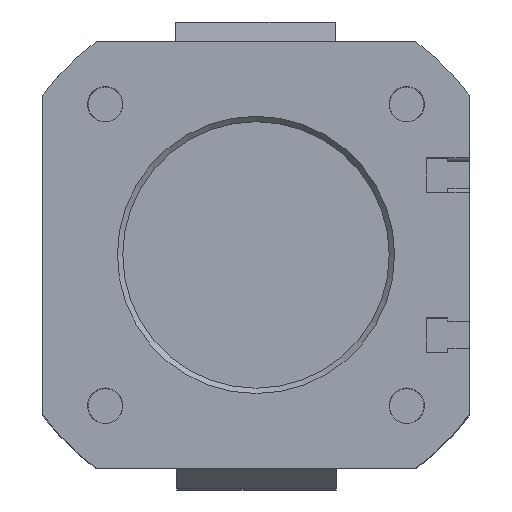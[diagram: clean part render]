
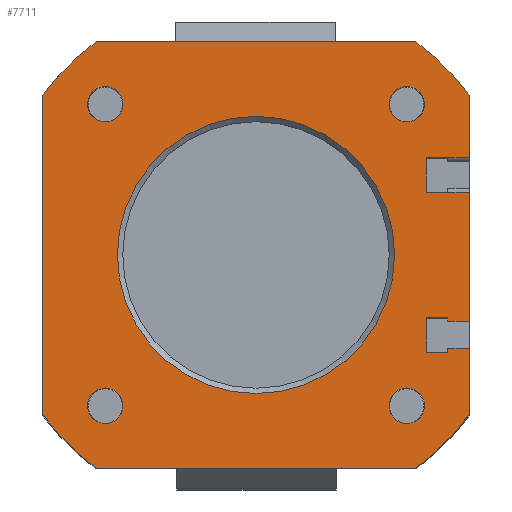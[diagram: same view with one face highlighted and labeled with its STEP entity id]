
A CAD part, top view. The second image highlights one B-rep face of the part: STEP entity #7711.
In plain terms, the highlighted planar face has unit normal (0, 0, 1).
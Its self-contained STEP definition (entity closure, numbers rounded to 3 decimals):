
#4103=CARTESIAN_POINT('',(-30.,80.,50.0));
#4104=VERTEX_POINT('',#4103);
#4111=CARTESIAN_POINT('',(30.,80.,50.0));
#4112=VERTEX_POINT('',#4111);
#4113=CARTESIAN_POINT('',(30.,80.,50.0));
#4114=DIRECTION('',(-1.0,0.0,0.0));
#4115=VECTOR('',#4114,60.);
#4116=LINE('',#4113,#4115);
#4117=EDGE_CURVE('',#4112,#4104,#4116,.T.);
#5008=CARTESIAN_POINT('',(30.,0.,50.0));
#5009=VERTEX_POINT('',#5008);
#5016=CARTESIAN_POINT('',(-30.,0.,50.0));
#5017=VERTEX_POINT('',#5016);
#5018=CARTESIAN_POINT('',(-30.,0.,50.0));
#5019=DIRECTION('',(1.0,0.0,0.0));
#5020=VECTOR('',#5019,60.);
#5021=LINE('',#5018,#5020);
#5022=EDGE_CURVE('',#5017,#5009,#5021,.T.);
#5316=CARTESIAN_POINT('',(-40.,10.,50.0));
#5317=VERTEX_POINT('',#5316);
#5324=CARTESIAN_POINT('',(-40.,70.,50.0));
#5325=VERTEX_POINT('',#5324);
#5326=CARTESIAN_POINT('',(-40.,70.,50.0));
#5327=DIRECTION('',(0.0,-1.0,0.0));
#5328=VECTOR('',#5327,60.0);
#5329=LINE('',#5326,#5328);
#5330=EDGE_CURVE('',#5325,#5317,#5329,.T.);
#5424=CARTESIAN_POINT('',(0.,40.,50.0));
#5425=DIRECTION('',(0.0,0.0,1.));
#5426=DIRECTION('',(-0.6,0.8,0.0));
#5427=AXIS2_PLACEMENT_3D('',#5424,#5425,#5426);
#5428=CIRCLE('',#5427,50.);
#5429=EDGE_CURVE('',#4104,#5325,#5428,.T.);
#5736=CARTESIAN_POINT('',(40.,70.,50.0));
#5737=VERTEX_POINT('',#5736);
#5744=CARTESIAN_POINT('',(40.,58.25,50.0));
#5745=VERTEX_POINT('',#5744);
#5746=CARTESIAN_POINT('',(40.,58.25,50.0));
#5747=DIRECTION('',(0.0,1.0,0.0));
#5748=VECTOR('',#5747,11.75);
#5749=LINE('',#5746,#5748);
#5750=EDGE_CURVE('',#5745,#5737,#5749,.T.);
#5802=CARTESIAN_POINT('',(40.,51.75,50.0));
#5803=VERTEX_POINT('',#5802);
#5810=CARTESIAN_POINT('',(40.,27.55,50.0));
#5811=VERTEX_POINT('',#5810);
#5812=CARTESIAN_POINT('',(40.,27.55,50.0));
#5813=DIRECTION('',(0.0,1.0,0.0));
#5814=VECTOR('',#5813,24.2);
#5815=LINE('',#5812,#5814);
#5816=EDGE_CURVE('',#5811,#5803,#5815,.T.);
#5859=CARTESIAN_POINT('',(40.,22.45,50.0));
#5860=VERTEX_POINT('',#5859);
#5867=CARTESIAN_POINT('',(40.,10.,50.0));
#5868=VERTEX_POINT('',#5867);
#5869=CARTESIAN_POINT('',(40.,10.,50.0));
#5870=DIRECTION('',(0.0,1.0,0.0));
#5871=VECTOR('',#5870,12.45);
#5872=LINE('',#5869,#5871);
#5873=EDGE_CURVE('',#5868,#5860,#5872,.T.);
#5979=CARTESIAN_POINT('',(0.,40.,50.0));
#5980=DIRECTION('',(0.0,0.0,1.));
#5981=DIRECTION('',(0.8,0.6,0.0));
#5982=AXIS2_PLACEMENT_3D('',#5979,#5980,#5981);
#5983=CIRCLE('',#5982,50.0);
#5984=EDGE_CURVE('',#5737,#4112,#5983,.T.);
#6016=CARTESIAN_POINT('',(0.,40.,50.0));
#6017=DIRECTION('',(0.0,0.0,1.));
#6018=DIRECTION('',(-0.8,-0.6,0.0));
#6019=AXIS2_PLACEMENT_3D('',#6016,#6017,#6018);
#6020=CIRCLE('',#6019,50.0);
#6021=EDGE_CURVE('',#5317,#5017,#6020,.T.);
#6051=CARTESIAN_POINT('',(0.,40.,50.0));
#6052=DIRECTION('',(0.0,0.0,1.));
#6053=DIRECTION('',(0.6,-0.8,0.0));
#6054=AXIS2_PLACEMENT_3D('',#6051,#6052,#6053);
#6055=CIRCLE('',#6054,50.);
#6056=EDGE_CURVE('',#5009,#5868,#6055,.T.);
#6941=CARTESIAN_POINT('',(32.,51.75,50.0));
#6942=VERTEX_POINT('',#6941);
#6943=CARTESIAN_POINT('',(40.,51.75,50.0));
#6944=DIRECTION('',(-1.0,0.0,0.0));
#6945=VECTOR('',#6944,8.0);
#6946=LINE('',#6943,#6945);
#6947=EDGE_CURVE('',#5803,#6942,#6946,.T.);
#7053=CARTESIAN_POINT('',(32.,58.25,50.0));
#7054=VERTEX_POINT('',#7053);
#7061=CARTESIAN_POINT('',(32.,51.75,50.0));
#7062=DIRECTION('',(0.0,1.0,0.0));
#7063=VECTOR('',#7062,6.5);
#7064=LINE('',#7061,#7063);
#7065=EDGE_CURVE('',#6942,#7054,#7064,.T.);
#7085=CARTESIAN_POINT('',(36.,27.55,50.0));
#7086=VERTEX_POINT('',#7085);
#7087=CARTESIAN_POINT('',(36.,27.55,50.0));
#7088=DIRECTION('',(1.0,0.0,0.0));
#7089=VECTOR('',#7088,4.0);
#7090=LINE('',#7087,#7089);
#7091=EDGE_CURVE('',#7086,#5811,#7090,.T.);
#7108=CARTESIAN_POINT('',(32.,21.75,50.0));
#7109=VERTEX_POINT('',#7108);
#7116=CARTESIAN_POINT('',(36.,21.75,50.0));
#7117=VERTEX_POINT('',#7116);
#7118=CARTESIAN_POINT('',(36.,21.75,50.0));
#7119=DIRECTION('',(-1.0,0.0,0.0));
#7120=VECTOR('',#7119,4.0);
#7121=LINE('',#7118,#7120);
#7122=EDGE_CURVE('',#7117,#7109,#7121,.T.);
#7148=CARTESIAN_POINT('',(32.,28.25,50.0));
#7149=VERTEX_POINT('',#7148);
#7156=CARTESIAN_POINT('',(32.,21.75,50.0));
#7157=DIRECTION('',(0.0,1.0,0.0));
#7158=VECTOR('',#7157,6.5);
#7159=LINE('',#7156,#7158);
#7160=EDGE_CURVE('',#7109,#7149,#7159,.T.);
#7181=CARTESIAN_POINT('',(36.,28.25,50.0));
#7182=VERTEX_POINT('',#7181);
#7189=CARTESIAN_POINT('',(32.,28.25,50.0));
#7190=DIRECTION('',(1.0,0.0,0.0));
#7191=VECTOR('',#7190,4.);
#7192=LINE('',#7189,#7191);
#7193=EDGE_CURVE('',#7149,#7182,#7192,.T.);
#7212=CARTESIAN_POINT('',(36.,28.25,50.0));
#7213=DIRECTION('',(0.0,-1.0,0.0));
#7214=VECTOR('',#7213,0.7);
#7215=LINE('',#7212,#7214);
#7216=EDGE_CURVE('',#7182,#7086,#7215,.T.);
#7237=CARTESIAN_POINT('',(36.,22.45,50.0));
#7238=VERTEX_POINT('',#7237);
#7239=CARTESIAN_POINT('',(36.,22.45,50.0));
#7240=DIRECTION('',(0.0,-1.0,0.0));
#7241=VECTOR('',#7240,0.7);
#7242=LINE('',#7239,#7241);
#7243=EDGE_CURVE('',#7238,#7117,#7242,.T.);
#7266=CARTESIAN_POINT('',(40.,22.45,50.0));
#7267=DIRECTION('',(-1.0,0.0,0.0));
#7268=VECTOR('',#7267,4.);
#7269=LINE('',#7266,#7268);
#7270=EDGE_CURVE('',#5860,#7238,#7269,.T.);
#7299=CARTESIAN_POINT('',(32.,58.25,50.0));
#7300=DIRECTION('',(1.0,0.0,0.0));
#7301=VECTOR('',#7300,8.);
#7302=LINE('',#7299,#7301);
#7303=EDGE_CURVE('',#7054,#5745,#7302,.T.);
#7374=CARTESIAN_POINT('',(28.284,15.039,50.0));
#7375=VERTEX_POINT('',#7374);
#7376=CARTESIAN_POINT('',(28.284,11.716,50.0));
#7377=DIRECTION('',(0.0,0.0,-1.0));
#7378=DIRECTION('',(0.0,1.0,0.0));
#7379=AXIS2_PLACEMENT_3D('',#7376,#7377,#7378);
#7380=CIRCLE('',#7379,3.324);
#7381=EDGE_CURVE('',#7375,#7375,#7380,.T.);
#7394=CARTESIAN_POINT('',(-28.284,15.039,50.0));
#7395=VERTEX_POINT('',#7394);
#7396=CARTESIAN_POINT('',(-28.284,11.716,50.0));
#7397=DIRECTION('',(0.0,0.0,-1.0));
#7398=DIRECTION('',(0.0,1.0,0.0));
#7399=AXIS2_PLACEMENT_3D('',#7396,#7397,#7398);
#7400=CIRCLE('',#7399,3.324);
#7401=EDGE_CURVE('',#7395,#7395,#7400,.T.);
#7422=CARTESIAN_POINT('',(-28.284,71.608,50.0));
#7423=VERTEX_POINT('',#7422);
#7424=CARTESIAN_POINT('',(-28.284,68.284,50.0));
#7425=DIRECTION('',(0.0,0.0,-1.0));
#7426=DIRECTION('',(0.0,1.0,0.0));
#7427=AXIS2_PLACEMENT_3D('',#7424,#7425,#7426);
#7428=CIRCLE('',#7427,3.324);
#7429=EDGE_CURVE('',#7423,#7423,#7428,.T.);
#7450=CARTESIAN_POINT('',(28.284,71.608,50.0));
#7451=VERTEX_POINT('',#7450);
#7452=CARTESIAN_POINT('',(28.284,68.284,50.0));
#7453=DIRECTION('',(0.0,0.0,-1.0));
#7454=DIRECTION('',(0.0,1.0,0.0));
#7455=AXIS2_PLACEMENT_3D('',#7452,#7453,#7454);
#7456=CIRCLE('',#7455,3.324);
#7457=EDGE_CURVE('',#7451,#7451,#7456,.T.);
#7661=CARTESIAN_POINT('',(0.,40.,50.0));
#7662=DIRECTION('',(0.0,0.0,1.0));
#7663=DIRECTION('',(0.0,1.0,0.0));
#7664=AXIS2_PLACEMENT_3D('',#7661,#7662,#7663);
#7665=PLANE('',#7664);
#7666=ORIENTED_EDGE('',*,*,#7303,.T.);
#7667=ORIENTED_EDGE('',*,*,#5750,.T.);
#7668=ORIENTED_EDGE('',*,*,#5984,.T.);
#7669=ORIENTED_EDGE('',*,*,#4117,.T.);
#7670=ORIENTED_EDGE('',*,*,#5429,.T.);
#7671=ORIENTED_EDGE('',*,*,#5330,.T.);
#7672=ORIENTED_EDGE('',*,*,#6021,.T.);
#7673=ORIENTED_EDGE('',*,*,#5022,.T.);
#7674=ORIENTED_EDGE('',*,*,#6056,.T.);
#7675=ORIENTED_EDGE('',*,*,#5873,.T.);
#7676=ORIENTED_EDGE('',*,*,#7270,.T.);
#7677=ORIENTED_EDGE('',*,*,#7243,.T.);
#7678=ORIENTED_EDGE('',*,*,#7122,.T.);
#7679=ORIENTED_EDGE('',*,*,#7160,.T.);
#7680=ORIENTED_EDGE('',*,*,#7193,.T.);
#7681=ORIENTED_EDGE('',*,*,#7216,.T.);
#7682=ORIENTED_EDGE('',*,*,#7091,.T.);
#7683=ORIENTED_EDGE('',*,*,#5816,.T.);
#7684=ORIENTED_EDGE('',*,*,#6947,.T.);
#7685=ORIENTED_EDGE('',*,*,#7065,.T.);
#7686=EDGE_LOOP('',(#7666,#7667,#7668,#7669,#7670,#7671,#7672,#7673,#7674,#7675,#7676,#7677,#7678,#7679,#7680,#7681,#7682,#7683,#7684,#7685));
#7687=FACE_OUTER_BOUND('',#7686,.T.);
#7688=ORIENTED_EDGE('',*,*,#7381,.T.);
#7689=EDGE_LOOP('',(#7688));
#7690=FACE_BOUND('',#7689,.T.);
#7691=ORIENTED_EDGE('',*,*,#7401,.T.);
#7692=EDGE_LOOP('',(#7691));
#7693=FACE_BOUND('',#7692,.T.);
#7694=ORIENTED_EDGE('',*,*,#7429,.T.);
#7695=EDGE_LOOP('',(#7694));
#7696=FACE_BOUND('',#7695,.T.);
#7697=ORIENTED_EDGE('',*,*,#7457,.T.);
#7698=EDGE_LOOP('',(#7697));
#7699=FACE_BOUND('',#7698,.T.);
#7700=CARTESIAN_POINT('',(0.,66.,50.0));
#7701=VERTEX_POINT('',#7700);
#7702=CARTESIAN_POINT('',(0.,40.,50.0));
#7703=DIRECTION('',(0.0,0.0,1.0));
#7704=DIRECTION('',(0.0,-1.0,0.0));
#7705=AXIS2_PLACEMENT_3D('',#7702,#7703,#7704);
#7706=CIRCLE('',#7705,26.0);
#7707=EDGE_CURVE('',#7701,#7701,#7706,.T.);
#7708=ORIENTED_EDGE('',*,*,#7707,.F.);
#7709=EDGE_LOOP('',(#7708));
#7710=FACE_BOUND('',#7709,.T.);
#7711=ADVANCED_FACE('',(#7687,#7690,#7693,#7696,#7699,#7710),#7665,.T.);
